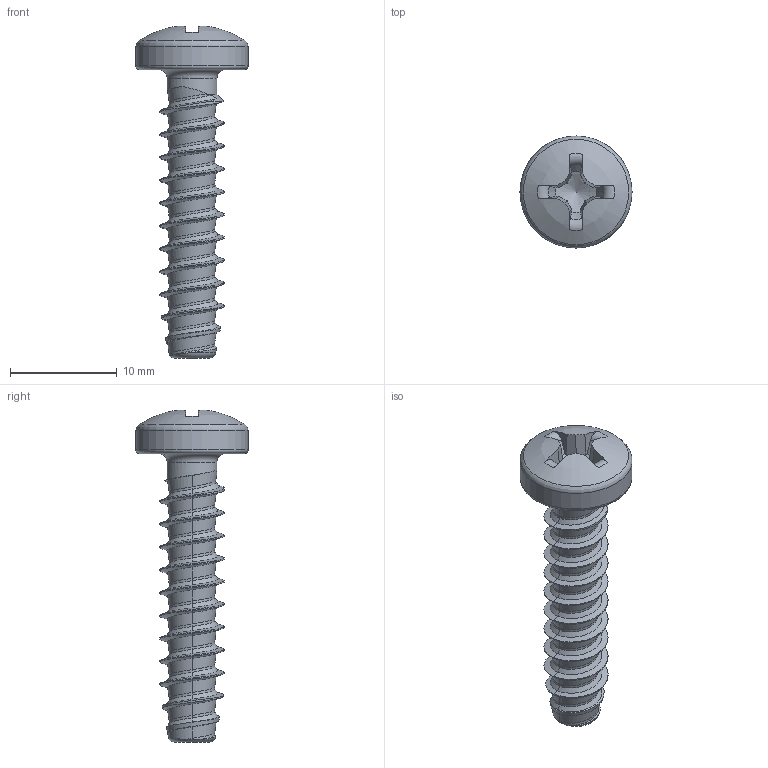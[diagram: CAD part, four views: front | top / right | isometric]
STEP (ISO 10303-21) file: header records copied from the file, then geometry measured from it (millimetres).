
FILE_DESCRIPTION(/* description */ (''),/* implementation_level */ '2;1');
FILE_NAME(/* name */ 'KN6032-STSplus-60x27-H3.step',/* time_stamp */ '2017-10-10T15:40:07+02:00',/* author */ (''),/* organization */ (''),/* preprocessor_version */ 'ST-DEVELOPER v16',/* originating_system */ 'SIEMENS PLM Software NX 10.0',/* authorisation */ '');
FILE_SCHEMA (('AUTOMOTIVE_DESIGN { 1 0 10303 214 3 1 1 1 }'));
Length unit declared in the file: millimetre
Products named in the file (1): KN6032-STSplus-60x27-H3
Bounding box: 10.5 x 10.5 x 31.08 mm (x, y, z)
Volume: 723.2 mm3; surface area: 859.5 mm2
Topology: 1 solids, 1 shells, 100 faces, 245 edges, 147 vertices
Faces by surface type: bspline 63, plane 18, torus 8, cone 7, cylinder 3, sphere 1
Full cylindrical faces by diameter (mm): 4.68 x1, 10.5 x1
Entity records: 6220 total; most frequent: CARTESIAN_POINT 4335, ORIENTED_EDGE 462, EDGE_CURVE 231, DIRECTION 225, VERTEX_POINT 142, B_SPLINE_CURVE_WITH_KNOTS 121, EDGE_LOOP 108, ADVANCED_FACE 100
